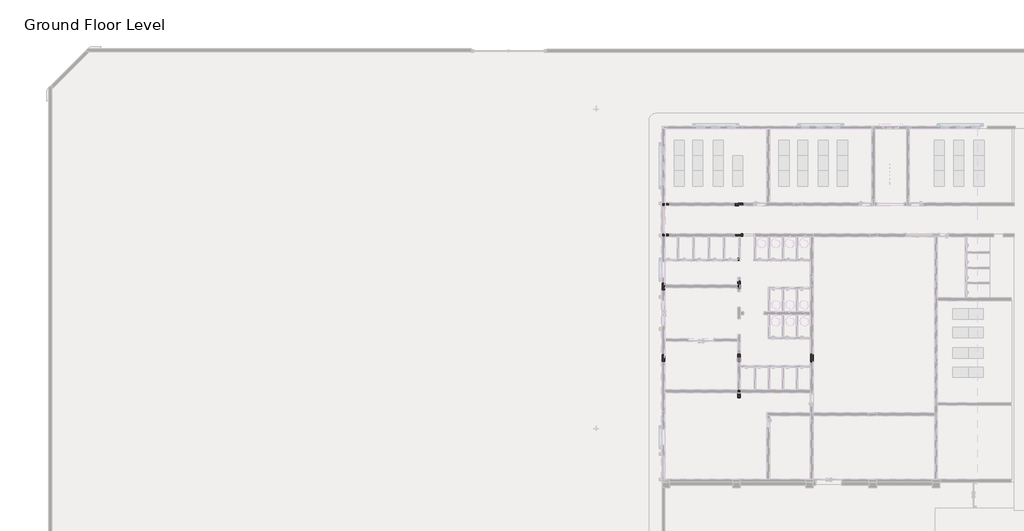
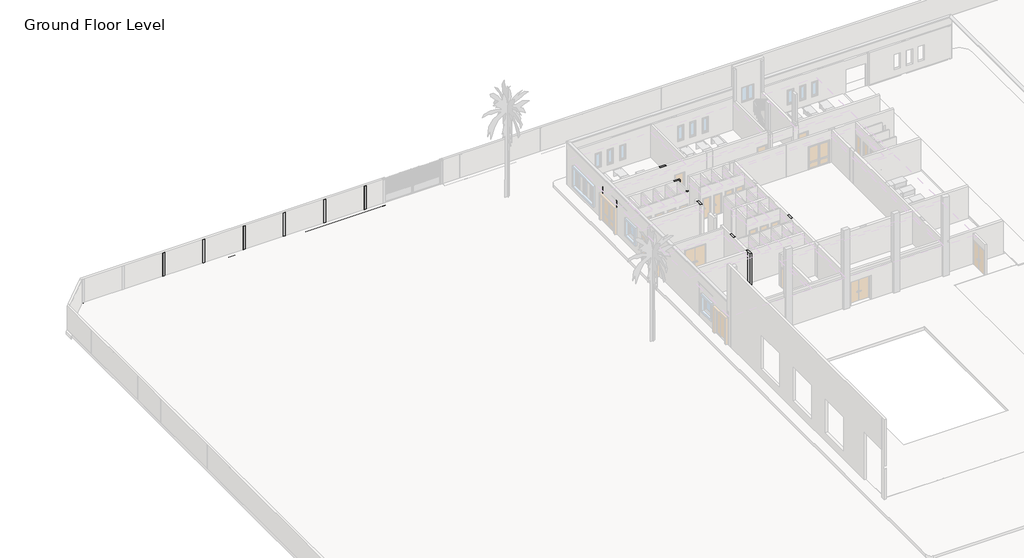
# One storey, part 18 of 23: 27 beams, 17 columns, 11 slabs, 1 footing.
"""IFC4 building model written with IfcOpenShell, lengths in millimetres."""

from ifc_helpers import new_model, si_unit, frame, origin, place, context, project, spatial, polyline, outline, extrude, faceted_brep, element, save

model = new_model("IFC4")

# Units and contexts
model_context = context("Model", 3, world=origin())
ifc_project = project(units=[si_unit("LENGTHUNIT", "METRE", prefix="MILLI")], contexts=[model_context])

# Site, building, storey
site = spatial("IfcSite", under=ifc_project)
building = spatial("IfcBuilding", under=site)
storey = spatial("IfcBuildingStorey", under=building, Name="Ground Floor Level", Elevation=900.0)

# Beams
placement = place(None, origin())
element("IfcBeam", 1, ObjectType="Concrete - Rectangular Beam : GB1", at=placement, inside=storey, context=model_context, shape_type="SweptSolid", body=[
    extrude(outline(polyline([(-22047.2327605, 15445.2153534), (-21847.2327605, 15445.2153534), (-21847.2327605, 13245.2153534), (-22047.2327605, 13245.2153534), (-22047.2327605, 15445.2153534)])), frame((0.0, 0.0, 500.0), z_axis=(0.0, 0.0, 1.0), x_axis=(1.0, 0.0, 0.0)), (0.0, 0.0, 1.0), 100.0),
])
element("IfcBeam", 2, ObjectType="Concrete - Rectangular Beam : GB1", at=placement, inside=storey, context=model_context, shape_type="SweptSolid", body=[
    extrude(outline(polyline([(-19747.2327605, 13045.2153534), (-19547.2327605, 13045.2153534), (-19547.2327605, 11345.2153534), (-19747.2327605, 11345.2153534), (-19747.2327605, 13045.2153534)])), frame((0.0, 0.0, 500.0), z_axis=(0.0, 0.0, 1.0), x_axis=(1.0, 0.0, 0.0)), (0.0, 0.0, 1.0), 100.0),
])
element("IfcBeam", 3, ObjectType="Concrete - Rectangular Beam : GB1", at=placement, inside=storey, context=model_context, shape_type="SweptSolid", body=[
    extrude(outline(polyline([(-18547.2327605, 13045.2153534), (-18347.2327605, 13045.2153534), (-18347.2327605, 11345.2153534), (-18547.2327605, 11345.2153534), (-18547.2327605, 13045.2153534)])), frame((0.0, 0.0, 500.0), z_axis=(0.0, 0.0, 1.0), x_axis=(1.0, 0.0, 0.0)), (0.0, 0.0, 1.0), 100.0),
])
element("IfcBeam", 4, ObjectType="Concrete - Rectangular Beam : GB1", at=placement, inside=storey, context=model_context, shape_type="SweptSolid", body=[
    extrude(outline(polyline([(-17347.2327605, 13045.2153534), (-17147.2327605, 13045.2153534), (-17147.2327605, 11345.2153534), (-17347.2327605, 11345.2153534), (-17347.2327605, 13045.2153534)])), frame((0.0, 0.0, 500.0), z_axis=(0.0, 0.0, 1.0), x_axis=(1.0, 0.0, 0.0)), (0.0, 0.0, 1.0), 100.0),
])
element("IfcBeam", 5, ObjectType="Concrete - Rectangular Beam : GB1", at=placement, inside=storey, context=model_context, shape_type="SweptSolid", body=[
    extrude(outline(polyline([(-16147.2327605, 11345.2153534), (-16147.2327605, 13045.2153534), (-15947.2327605, 13045.2153534), (-15947.2327605, 11345.2153534), (-16147.2327605, 11345.2153534)])), frame((0.0, 0.0, 500.0), z_axis=(0.0, 0.0, 1.0), x_axis=(1.0, 0.0, 0.0)), (0.0, 0.0, 1.0), 100.0),
])
element("IfcBeam", 6, ObjectType="Concrete - Rectangular Beam : GB1", at=placement, inside=storey, context=model_context, shape_type="SweptSolid", body=[
    extrude(outline(polyline([(-13547.2327605, 5245.2153534), (-13747.2327605, 5245.2153534), (-13747.2327605, 6945.2153534), (-13547.2327605, 6945.2153534), (-13547.2327605, 5245.2153534)])), frame((0.0, 0.0, 500.0), z_axis=(0.0, 0.0, 1.0), x_axis=(1.0, 0.0, 0.0)), (0.0, 0.0, 1.0), 100.0),
])
element("IfcBeam", 7, ObjectType="Concrete - Rectangular Beam : GB1", at=placement, inside=storey, context=model_context, shape_type="SweptSolid", body=[
    extrude(outline(polyline([(-12447.2327605, 5245.2153534), (-12647.2327605, 5245.2153534), (-12647.2327605, 6945.2153534), (-12447.2327605, 6945.2153534), (-12447.2327605, 5245.2153534)])), frame((0.0, 0.0, 500.0), z_axis=(0.0, 0.0, 1.0), x_axis=(1.0, 0.0, 0.0)), (0.0, 0.0, 1.0), 100.0),
])
element("IfcBeam", 8, ObjectType="Concrete - Rectangular Beam : GB1", at=placement, inside=storey, context=model_context, shape_type="SweptSolid", body=[
    extrude(outline(polyline([(-14847.2327605, 2745.2153534), (-14647.2327605, 2745.2153534), (-14647.2327605, 1095.2153534), (-14847.2327605, 1095.2153534), (-14847.2327605, 2745.2153534)])), frame((0.0, 0.0, 500.0), z_axis=(0.0, 0.0, 1.0), x_axis=(1.0, 0.0, 0.0)), (0.0, 0.0, 1.0), 100.0),
])
element("IfcBeam", 9, ObjectType="Concrete - Rectangular Beam : GB1", at=placement, inside=storey, context=model_context, shape_type="SweptSolid", body=[
    extrude(outline(polyline([(-13747.2327605, 2745.2153534), (-13547.2327605, 2745.2153534), (-13547.2327605, 1095.2153534), (-13747.2327605, 1095.2153534), (-13747.2327605, 2745.2153534)])), frame((0.0, 0.0, 500.0), z_axis=(0.0, 0.0, 1.0), x_axis=(1.0, 0.0, 0.0)), (0.0, 0.0, 1.0), 100.0),
])
element("IfcBeam", 10, ObjectType="Concrete - Rectangular Beam : GB1", at=placement, inside=storey, context=model_context, shape_type="SweptSolid", body=[
    extrude(outline(polyline([(-12647.2327605, 2745.2153534), (-12447.2327605, 2745.2153534), (-12447.2327605, 1095.2153534), (-12647.2327605, 1095.2153534), (-12647.2327605, 2745.2153534)])), frame((0.0, 0.0, 500.0), z_axis=(0.0, 0.0, 1.0), x_axis=(1.0, 0.0, 0.0)), (0.0, 0.0, 1.0), 100.0),
])
element("IfcBeam", 11, ObjectType="Concrete - Rectangular Beam : GB1", at=placement, inside=storey, context=model_context, shape_type="SweptSolid", body=[
    extrude(outline(polyline([(-11547.2327605, 2745.2153534), (-11347.2327605, 2745.2153534), (-11347.2327605, 1095.2153534), (-11547.2327605, 1095.2153534), (-11547.2327605, 2745.2153534)])), frame((0.0, 0.0, 500.0), z_axis=(0.0, 0.0, 1.0), x_axis=(1.0, 0.0, 0.0)), (0.0, 0.0, 1.0), 100.0),
])
element("IfcBeam", 12, ObjectType="Concrete - Rectangular Beam : GB2", at=placement, inside=storey, context=model_context, shape_type="SweptSolid", body=[
    extrude(outline(polyline([(-20947.2327605, 13045.2153534), (-20747.2327605, 13045.2153534), (-20747.2327605, 11345.2153534), (-20947.2327605, 11345.2153534), (-20947.2327605, 13045.2153534)])), frame((0.0, 0.0, 300.0), z_axis=(0.0, 0.0, 1.0), x_axis=(1.0, 0.0, 0.0)), (0.0, 0.0, 1.0), 300.0),
])
element("IfcBeam", 13, ObjectType="Concrete - Rectangular Beam : GB2", at=placement, inside=storey, context=model_context, shape_type="SweptSolid", body=[
    extrude(outline(polyline([(-15947.2327605, 9545.2153534), (-16147.2327605, 9545.2153534), (-16147.2327605, 11145.2153534), (-15947.2327605, 11145.2153534), (-15947.2327605, 9545.2153534)])), frame((0.0, 0.0, 300.0), z_axis=(0.0, 0.0, 1.0), x_axis=(1.0, 0.0, 0.0)), (0.0, 0.0, 1.0), 300.0),
])
element("IfcBeam", 14, ObjectType="Concrete - Rectangular Beam : GB3", at=placement, inside=storey, context=model_context, shape_type="SweptSolid", body=[
    extrude(outline(polyline([(-21847.2327605, 845.2153534), (-21847.2327605, 1045.2153534), (-16197.2327605, 1045.2153534), (-16197.2327605, 845.2153534), (-21847.2327605, 845.2153534)])), frame((0.0, 0.0, 300.0), z_axis=(0.0, 0.0, 1.0), x_axis=(1.0, 0.0, 0.0)), (0.0, 0.0, 1.0), 300.0),
])
element("IfcBeam", 15, ObjectType="Concrete - Rectangular Beam : GB4", at=placement, inside=storey, context=model_context, shape_type="Brep", body=[
    faceted_brep([(-22047.2327605, 3295.2153534, 300.0), (-22047.2327605, -654.7846466, 300.0), (-22047.2327605, -654.7846466, 600.0), (-22047.2327605, 3295.2153534, 600.0), (-21847.2327605, 3295.2153534, 300.0), (-21847.2327605, 1045.2153534, 300.0), (-21847.2327605, 845.2153534, 300.0), (-21847.2327605, -654.7846466, 300.0), (-21847.2327605, 3295.2153534, 600.0), (-21847.2327605, 1045.2153534, 600.0), (-21847.2327605, 845.2153534, 600.0), (-21847.2327605, -654.7846466, 600.0)], [[[0, 1, 2, 3]], [[0, 4, 5, 6, 7, 1]], [[7, 6, 5, 4, 8, 9, 10, 11]], [[4, 0, 3, 8]], [[1, 7, 11, 2]], [[3, 2, 11, 10, 9, 8]]]),
])
element("IfcBeam", 16, ObjectType="Concrete - Rectangular Beam : GB4", at=placement, inside=storey, context=model_context, shape_type="SweptSolid", body=[
    extrude(outline(polyline([(-21547.2327605, 15445.2153534), (-21547.2327605, 15645.2153534), (-16347.2327605, 15645.2153534), (-16347.2327605, 15445.2153534), (-21547.2327605, 15445.2153534)])), frame((0.0, 0.0, 300.0), z_axis=(0.0, 0.0, 1.0), x_axis=(1.0, 0.0, 0.0)), (0.0, 0.0, 1.0), 300.0),
])
element("IfcBeam", 17, ObjectType="Concrete - Rectangular Beam : GB4", at=placement, inside=storey, context=model_context, shape_type="SweptSolid", body=[
    extrude(outline(polyline([(-21797.2327605, 9045.2153534), (-21797.2327605, 9245.2153534), (-16197.2327605, 9245.2153534), (-16197.2327605, 9045.2153534), (-21797.2327605, 9045.2153534)])), frame((0.0, 0.0, 300.0), z_axis=(0.0, 0.0, 1.0), x_axis=(1.0, 0.0, 0.0)), (0.0, 0.0, 1.0), 300.0),
])
element("IfcBeam", 18, ObjectType="Concrete - Rectangular Beam : GB4", at=placement, inside=storey, context=model_context, shape_type="SweptSolid", body=[
    extrude(outline(polyline([(-21847.2327605, 4845.2153534), (-21847.2327605, 5045.2153534), (-16197.2327605, 5045.2153534), (-16197.2327605, 4845.2153534), (-21847.2327605, 4845.2153534)])), frame((0.0, 0.0, 300.0), z_axis=(0.0, 0.0, 1.0), x_axis=(1.0, 0.0, 0.0)), (0.0, 0.0, 1.0), 300.0),
])
element("IfcBeam", 19, ObjectType="Concrete - Rectangular Beam : GB5", at=placement, inside=storey, context=model_context, shape_type="Brep", body=[
    faceted_brep([(-22047.2327605, 8895.2153534, 300.0), (-22047.2327605, 3795.2153534, 300.0), (-22047.2327605, 3795.2153534, 600.0), (-22047.2327605, 8895.2153534, 600.0), (-21847.2327605, 8895.2153534, 300.0), (-21847.2327605, 5045.2153534, 300.0), (-21847.2327605, 4845.2153534, 300.0), (-21847.2327605, 3795.2153534, 300.0), (-21847.2327605, 8895.2153534, 600.0), (-21847.2327605, 5045.2153534, 600.0), (-21847.2327605, 4845.2153534, 600.0), (-21847.2327605, 3795.2153534, 600.0)], [[[0, 1, 2, 3]], [[0, 4, 5, 6, 7, 1]], [[7, 6, 5, 4, 8, 9, 10, 11]], [[4, 0, 3, 8]], [[1, 7, 11, 2]], [[3, 2, 11, 10, 9, 8]]]),
])
element("IfcBeam", 20, ObjectType="Concrete - Rectangular Beam : GB5", at=placement, inside=storey, context=model_context, shape_type="Brep", body=[
    faceted_brep([(-16347.2327605, 13245.2153534, 300.0), (-21547.2327605, 13245.2153534, 300.0), (-21547.2327605, 13245.2153534, 600.0), (-16347.2327605, 13245.2153534, 600.0), (-21547.2327605, 13045.2153534, 300.0), (-16347.2327605, 13045.2153534, 300.0), (-20747.2327605, 13045.2153534, 300.0), (-20947.2327605, 13045.2153534, 300.0), (-16347.2327605, 13045.2153534, 600.0), (-17147.2327605, 13045.2153534, 600.0), (-17347.2327605, 13045.2153534, 600.0), (-18347.2327605, 13045.2153534, 600.0), (-18547.2327605, 13045.2153534, 600.0), (-19547.2327605, 13045.2153534, 600.0), (-19747.2327605, 13045.2153534, 600.0), (-20747.2327605, 13045.2153534, 600.0), (-20947.2327605, 13045.2153534, 600.0), (-21547.2327605, 13045.2153534, 600.0)], [[[0, 1, 2, 3]], [[4, 1, 0, 5, 6, 7]], [[4, 7, 6, 5, 8, 9, 10, 11, 12, 13, 14, 15, 16, 17]], [[1, 4, 17, 2]], [[5, 0, 3, 8]], [[3, 2, 17, 16, 15, 14, 13, 12, 11, 10, 9, 8]]]),
])
element("IfcBeam", 21, ObjectType="Concrete - Rectangular Beam : GB5", at=placement, inside=storey, context=model_context, shape_type="Brep", body=[
    faceted_brep([(-21797.2327605, 11145.2153534, 300.0), (-16147.2327605, 11145.2153534, 300.0), (-16147.2327605, 11145.2153534, 600.0), (-21797.2327605, 11145.2153534, 600.0), (-21797.2327605, 11345.2153534, 300.0), (-20947.2327605, 11345.2153534, 300.0), (-20747.2327605, 11345.2153534, 300.0), (-16147.2327605, 11345.2153534, 300.0), (-21797.2327605, 11345.2153534, 600.0), (-20947.2327605, 11345.2153534, 600.0), (-20747.2327605, 11345.2153534, 600.0), (-19747.2327605, 11345.2153534, 600.0), (-19547.2327605, 11345.2153534, 600.0), (-18547.2327605, 11345.2153534, 600.0), (-18347.2327605, 11345.2153534, 600.0), (-17347.2327605, 11345.2153534, 600.0), (-17147.2327605, 11345.2153534, 600.0), (-16147.2327605, 11345.2153534, 600.0)], [[[0, 1, 2, 3]], [[0, 4, 5, 6, 7, 1]], [[7, 6, 5, 4, 8, 9, 10, 11, 12, 13, 14, 15, 16, 17]], [[4, 0, 3, 8]], [[1, 7, 17, 2]], [[3, 2, 17, 16, 15, 14, 13, 12, 11, 10, 9, 8]]]),
])
element("IfcBeam", 22, ObjectType="Concrete - Rectangular Beam : GB5", at=placement, inside=storey, context=model_context, shape_type="Brep", body=[
    faceted_brep([(-15897.2327605, 5045.2153534, 300.0), (-10497.2327605, 5045.2153534, 300.0), (-10497.2327605, 5045.2153534, 600.0), (-15897.2327605, 5045.2153534, 600.0), (-10497.2327605, 5245.2153534, 300.0), (-15897.2327605, 5245.2153534, 300.0), (-15897.2327605, 5245.2153534, 600.0), (-13747.2327605, 5245.2153534, 600.0), (-13547.2327605, 5245.2153534, 600.0), (-12647.2327605, 5245.2153534, 600.0), (-12447.2327605, 5245.2153534, 600.0), (-11547.2327605, 5245.2153534, 600.0), (-11347.2327605, 5245.2153534, 600.0), (-10497.2327605, 5245.2153534, 600.0)], [[[0, 1, 2, 3]], [[4, 1, 0, 5]], [[4, 5, 6, 7, 8, 9, 10, 11, 12, 13]], [[1, 4, 13, 2]], [[5, 0, 3, 6]], [[3, 2, 13, 12, 11, 10, 9, 8, 7, 6]]]),
])
element("IfcBeam", 23, ObjectType="Concrete - Rectangular Beam : GB5", at=placement, inside=storey, context=model_context, shape_type="Brep", body=[
    faceted_brep([(-15897.2327605, 2745.2153534, 300.0), (-10497.2327605, 2745.2153534, 300.0), (-10497.2327605, 2745.2153534, 600.0), (-11347.2327605, 2745.2153534, 600.0), (-11547.2327605, 2745.2153534, 600.0), (-12447.2327605, 2745.2153534, 600.0), (-12647.2327605, 2745.2153534, 600.0), (-13547.2327605, 2745.2153534, 600.0), (-13747.2327605, 2745.2153534, 600.0), (-14647.2327605, 2745.2153534, 600.0), (-14847.2327605, 2745.2153534, 600.0), (-15897.2327605, 2745.2153534, 600.0), (-10497.2327605, 2945.2153534, 300.0), (-15897.2327605, 2945.2153534, 300.0), (-15897.2327605, 2945.2153534, 600.0), (-10497.2327605, 2945.2153534, 600.0)], [[[0, 1, 2, 3, 4, 5, 6, 7, 8, 9, 10, 11]], [[12, 1, 0, 13]], [[12, 13, 14, 15]], [[1, 12, 15, 2]], [[13, 0, 11, 14]], [[11, 10, 9, 8, 7, 6, 5, 4, 3, 2, 15, 14]]]),
])
element("IfcBeam", 24, ObjectType="Concrete - Rectangular Beam : GB5", at=placement, inside=storey, context=model_context, shape_type="Brep", body=[
    faceted_brep([(-15897.2327605, 6945.2153534, 300.0), (-10497.2327605, 6945.2153534, 300.0), (-10497.2327605, 6945.2153534, 600.0), (-11347.2327605, 6945.2153534, 600.0), (-11547.2327605, 6945.2153534, 600.0), (-12447.2327605, 6945.2153534, 600.0), (-12647.2327605, 6945.2153534, 600.0), (-13547.2327605, 6945.2153534, 600.0), (-13747.2327605, 6945.2153534, 600.0), (-15897.2327605, 6945.2153534, 600.0), (-10497.2327605, 7145.2153534, 300.0), (-15897.2327605, 7145.2153534, 300.0), (-15897.2327605, 7145.2153534, 600.0), (-13747.2327605, 7145.2153534, 600.0), (-13547.2327605, 7145.2153534, 600.0), (-12647.2327605, 7145.2153534, 600.0), (-12447.2327605, 7145.2153534, 600.0), (-11547.2327605, 7145.2153534, 600.0), (-11347.2327605, 7145.2153534, 600.0), (-10497.2327605, 7145.2153534, 600.0)], [[[0, 1, 2, 3, 4, 5, 6, 7, 8, 9]], [[10, 1, 0, 11]], [[10, 11, 12, 13, 14, 15, 16, 17, 18, 19]], [[1, 10, 19, 2]], [[11, 0, 9, 12]], [[9, 8, 7, 6, 5, 4, 3, 2, 19, 18, 17, 16, 15, 14, 13, 12]]]),
])
element("IfcBeam", 25, ObjectType="Concrete - Rectangular Beam : GB6", at=placement, inside=storey, context=model_context, shape_type="Brep", body=[
    faceted_brep([(-22097.2327605, 13245.2153534, 300.0), (-22097.2327605, 9045.2153534, 300.0), (-22097.2327605, 9045.2153534, 600.0), (-22097.2327605, 13245.2153534, 600.0), (-22047.2327605, 13045.2153534, 300.0), (-21797.2327605, 13045.2153534, 300.0), (-21797.2327605, 11345.2153534, 300.0), (-21797.2327605, 11145.2153534, 300.0), (-21797.2327605, 9245.2153534, 300.0), (-21797.2327605, 9045.2153534, 300.0), (-21847.2327605, 9045.2153534, 300.0), (-21847.2327605, 9395.2153534, 300.0), (-22047.2327605, 9395.2153534, 300.0), (-22047.2327605, 9045.2153534, 300.0), (-22047.2327605, 13245.2153534, 300.0), (-21797.2327605, 13045.2153534, 600.0), (-21797.2327605, 11345.2153534, 600.0), (-21797.2327605, 11145.2153534, 600.0), (-21797.2327605, 9245.2153534, 600.0), (-21797.2327605, 9045.2153534, 600.0), (-22047.2327605, 13045.2153534, 600.0), (-22047.2327605, 13245.2153534, 600.0), (-22047.2327605, 9395.2153534, 600.0), (-22047.2327605, 9045.2153534, 600.0), (-21847.2327605, 9395.2153534, 600.0), (-21847.2327605, 9045.2153534, 600.0)], [[[0, 1, 2, 3]], [[4, 5, 6, 7, 8, 9, 10, 11, 12, 13, 1, 0, 14]], [[9, 8, 7, 6, 5, 15, 16, 17, 18, 19]], [[5, 4, 20, 15]], [[4, 14, 21, 20]], [[13, 12, 22, 23]], [[12, 11, 24, 22]], [[11, 10, 25, 24]], [[14, 0, 3, 21]], [[1, 13, 23, 2]], [[10, 9, 19, 25]], [[3, 2, 23, 22, 24, 25, 19, 18, 17, 16, 15, 20, 21]]]),
])
element("IfcBeam", 26, ObjectType="Concrete - Rectangular Beam : GB6", at=placement, inside=storey, context=model_context, shape_type="Brep", body=[
    faceted_brep([(-16197.2327605, 9245.2153534, 300.0), (-16197.2327605, 9045.2153534, 300.0), (-16197.2327605, 5045.2153534, 300.0), (-16197.2327605, 4845.2153534, 300.0), (-16197.2327605, 1045.2153534, 300.0), (-16197.2327605, 845.2153534, 300.0), (-16197.2327605, 795.2153534, 300.0), (-16197.2327605, 795.2153534, 600.0), (-16197.2327605, 845.2153534, 600.0), (-16197.2327605, 1045.2153534, 600.0), (-16197.2327605, 4845.2153534, 600.0), (-16197.2327605, 5045.2153534, 600.0), (-16197.2327605, 9045.2153534, 600.0), (-16197.2327605, 9245.2153534, 600.0), (-16147.2327605, 9245.2153534, 300.0), (-16147.2327605, 8945.2153534, 300.0), (-15947.2327605, 8945.2153534, 300.0), (-15947.2327605, 9245.2153534, 300.0), (-15897.2327605, 9245.2153534, 300.0), (-15897.2327605, 9145.2153534, 300.0), (-15897.2327605, 8945.2153534, 300.0), (-15897.2327605, 7145.2153534, 300.0), (-15897.2327605, 6945.2153534, 300.0), (-15897.2327605, 5245.2153534, 300.0), (-15897.2327605, 5045.2153534, 300.0), (-15897.2327605, 2945.2153534, 300.0), (-15897.2327605, 2745.2153534, 300.0), (-15897.2327605, 1095.2153534, 300.0), (-15897.2327605, 795.2153534, 300.0), (-15947.2327605, 795.2153534, 300.0), (-15947.2327605, 1045.2153534, 300.0), (-16147.2327605, 1045.2153534, 300.0), (-16147.2327605, 795.2153534, 300.0), (-15947.2327605, 3245.2153534, 300.0), (-15947.2327605, 3845.2153534, 300.0), (-16147.2327605, 3845.2153534, 300.0), (-16147.2327605, 3245.2153534, 300.0), (-15897.2327605, 9245.2153534, 600.0), (-15897.2327605, 9145.2153534, 600.0), (-15897.2327605, 8945.2153534, 600.0), (-15897.2327605, 7145.2153534, 600.0), (-15897.2327605, 6945.2153534, 600.0), (-15897.2327605, 5245.2153534, 600.0), (-15897.2327605, 5045.2153534, 600.0), (-15897.2327605, 2945.2153534, 600.0), (-15897.2327605, 2745.2153534, 600.0), (-15897.2327605, 1095.2153534, 600.0), (-15897.2327605, 795.2153534, 600.0), (-15947.2327605, 8945.2153534, 600.0), (-15947.2327605, 9245.2153534, 600.0), (-16147.2327605, 8945.2153534, 600.0), (-16147.2327605, 9245.2153534, 600.0), (-15947.2327605, 795.2153534, 600.0), (-15947.2327605, 1045.2153534, 600.0), (-16147.2327605, 1045.2153534, 600.0), (-16147.2327605, 795.2153534, 600.0), (-15947.2327605, 3245.2153534, 600.0), (-15947.2327605, 3845.2153534, 600.0), (-16147.2327605, 3245.2153534, 600.0), (-16147.2327605, 3845.2153534, 600.0)], [[[0, 1, 2, 3, 4, 5, 6, 7, 8, 9, 10, 11, 12, 13]], [[6, 5, 4, 3, 2, 1, 0, 14, 15, 16, 17, 18, 19, 20, 21, 22, 23, 24, 25, 26, 27, 28, 29, 30, 31, 32], [33, 34, 35, 36]], [[28, 27, 26, 25, 24, 23, 22, 21, 20, 19, 18, 37, 38, 39, 40, 41, 42, 43, 44, 45, 46, 47]], [[17, 16, 48, 49]], [[16, 15, 50, 48]], [[15, 14, 51, 50]], [[30, 29, 52, 53]], [[32, 31, 54, 55]], [[31, 30, 53, 54]], [[14, 0, 13, 51]], [[6, 32, 55, 7]], [[18, 17, 49, 37]], [[29, 28, 47, 52]], [[34, 33, 56, 57]], [[33, 36, 58, 56]], [[36, 35, 59, 58]], [[35, 34, 57, 59]], [[13, 12, 11, 10, 9, 8, 7, 55, 54, 53, 52, 47, 46, 45, 44, 43, 42, 41, 40, 39, 38, 37, 49, 48, 50, 51], [57, 56, 58, 59]]]),
])
element("IfcBeam", 27, ObjectType="Concrete - Rectangular Beam : GB6", at=placement, inside=storey, context=model_context, shape_type="Brep", body=[
    faceted_brep([(-15897.2327605, 795.2153534, 300.0), (-13847.2327605, 795.2153534, 300.0), (-13647.2327605, 795.2153534, 300.0), (-10497.2327605, 795.2153534, 300.0), (-10497.2327605, 795.2153534, 600.0), (-13647.2327605, 795.2153534, 600.0), (-13847.2327605, 795.2153534, 600.0), (-15897.2327605, 795.2153534, 600.0), (-10497.2327605, 1095.2153534, 300.0), (-15897.2327605, 1095.2153534, 300.0), (-15897.2327605, 1095.2153534, 600.0), (-14847.2327605, 1095.2153534, 600.0), (-14647.2327605, 1095.2153534, 600.0), (-13747.2327605, 1095.2153534, 600.0), (-13547.2327605, 1095.2153534, 600.0), (-12647.2327605, 1095.2153534, 600.0), (-12447.2327605, 1095.2153534, 600.0), (-11547.2327605, 1095.2153534, 600.0), (-11347.2327605, 1095.2153534, 600.0), (-10497.2327605, 1095.2153534, 600.0)], [[[0, 1, 2, 3, 4, 5, 6, 7]], [[8, 3, 2, 1, 0, 9]], [[8, 9, 10, 11, 12, 13, 14, 15, 16, 17, 18, 19]], [[3, 8, 19, 4]], [[9, 0, 7, 10]], [[7, 6, 5, 4, 19, 18, 17, 16, 15, 14, 13, 12, 11, 10]]]),
])

# Columns
element("IfcColumn", 28, ObjectType="Concrete Rectangular : C", at=placement, inside=storey, context=model_context, shape_type="Brep", body=[
    faceted_brep([(-15947.2327605, 11345.2153534, -300.0), (-15947.2327605, 11145.2153534, -300.0), (-16147.2327605, 11145.2153534, -300.0), (-16147.2327605, 11345.2153534, -300.0), (-15947.2327605, 11145.2153534, 600.0), (-15947.2327605, 11345.2153534, 600.0), (-16147.2327605, 11345.2153534, 600.0), (-16147.2327605, 11145.2153534, 600.0), (-15947.2327605, 11345.2153534, 300.0), (-15947.2327605, 11345.2153534, 500.0), (-15947.2327605, 11145.2153534, 300.0), (-16147.2327605, 11145.2153534, 300.0), (-16147.2327605, 11345.2153534, 500.0), (-16147.2327605, 11345.2153534, 300.0)], [[[0, 1, 2, 3]], [[4, 5, 6, 7]], [[1, 0, 8, 9, 5, 4, 10]], [[2, 1, 10, 4, 7, 11]], [[3, 2, 11, 7, 6, 12, 13]], [[0, 3, 13, 12, 6, 5, 9, 8]]]),
    faceted_brep([(-15947.2327605, 11345.2153534, 4400.0), (-15947.2327605, 11255.2153534, 4400.0), (-15947.2327605, 11145.2153534, 4400.0), (-15947.2327605, 11145.2153534, 900.0), (-15947.2327605, 11255.2153534, 900.0), (-15947.2327605, 11345.2153534, 900.0), (-16147.2327605, 11145.2153534, 4400.0), (-16147.2327605, 11145.2153534, 900.0), (-16147.2327605, 11255.2153534, 4400.0), (-16147.2327605, 11345.2153534, 4400.0), (-16147.2327605, 11345.2153534, 900.0), (-16147.2327605, 11255.2153534, 900.0), (-16057.2327605, 11345.2153534, 4400.0), (-16057.2327605, 11345.2153534, 900.0)], [[[0, 1, 2, 3, 4, 5]], [[2, 6, 7, 3]], [[6, 8, 9, 10, 11, 7]], [[9, 12, 0, 5, 13, 10]], [[2, 1, 0, 12, 9, 8, 6]], [[5, 4, 3, 7, 11, 10, 13]]]),
])
element("IfcColumn", 29, ObjectType="Concrete Rectangular : C", at=placement, inside=storey, context=model_context, shape_type="SweptSolid", body=[
    extrude(outline(polyline([(-58647.1210225, 27650.6767253), (-58647.1210225, 27450.6767253), (-58847.1210225, 27450.6767253), (-58847.1210225, 27650.6767253), (-58647.1210225, 27650.6767253)])), frame((0.0, 0.0, 600.0), z_axis=(0.0, 0.0, 1.0), x_axis=(1.0, 0.0, 0.0)), (0.0, 0.0, 1.0), 2450.0),
])
element("IfcColumn", 30, ObjectType="Concrete Rectangular : C", at=placement, inside=storey, context=model_context, shape_type="SweptSolid", body=[
    extrude(outline(polyline([(-54647.1210225, 27650.6767253), (-54647.1210225, 27450.6767253), (-54847.1210225, 27450.6767253), (-54847.1210225, 27650.6767253), (-54647.1210225, 27650.6767253)])), frame((0.0, 0.0, 600.0), z_axis=(0.0, 0.0, 1.0), x_axis=(1.0, 0.0, 0.0)), (0.0, 0.0, 1.0), 2450.0),
])
element("IfcColumn", 31, ObjectType="Concrete Rectangular : C", at=placement, inside=storey, context=model_context, shape_type="SweptSolid", body=[
    extrude(outline(polyline([(-50647.1210225, 27650.6767253), (-50647.1210225, 27450.6767253), (-50847.1210225, 27450.6767253), (-50847.1210225, 27650.6767253), (-50647.1210225, 27650.6767253)])), frame((0.0, 0.0, 600.0), z_axis=(0.0, 0.0, 1.0), x_axis=(1.0, 0.0, 0.0)), (0.0, 0.0, 1.0), 2450.0),
])
element("IfcColumn", 32, ObjectType="Concrete Rectangular : C", at=placement, inside=storey, context=model_context, shape_type="SweptSolid", body=[
    extrude(outline(polyline([(-46647.1210225, 27650.6767253), (-46647.1210225, 27450.6767253), (-46847.1210225, 27450.6767253), (-46847.1210225, 27650.6767253), (-46647.1210225, 27650.6767253)])), frame((0.0, 0.0, 600.0), z_axis=(0.0, 0.0, 1.0), x_axis=(1.0, 0.0, 0.0)), (0.0, 0.0, 1.0), 2450.0),
])
element("IfcColumn", 33, ObjectType="Concrete Rectangular : C", at=placement, inside=storey, context=model_context, shape_type="SweptSolid", body=[
    extrude(outline(polyline([(-42647.1210225, 27650.6767253), (-42647.1210225, 27450.6767253), (-42847.1210225, 27450.6767253), (-42847.1210225, 27650.6767253), (-42647.1210225, 27650.6767253)])), frame((0.0, 0.0, 600.0), z_axis=(0.0, 0.0, 1.0), x_axis=(1.0, 0.0, 0.0)), (0.0, 0.0, 1.0), 2450.0),
])
element("IfcColumn", 34, ObjectType="Concrete Rectangular : C", at=placement, inside=storey, context=model_context, shape_type="SweptSolid", body=[
    extrude(outline(polyline([(-38647.1210225, 27650.6767253), (-38647.1210225, 27450.6767253), (-38847.1210225, 27450.6767253), (-38847.1210225, 27650.6767253), (-38647.1210225, 27650.6767253)])), frame((0.0, 0.0, 600.0), z_axis=(0.0, 0.0, 1.0), x_axis=(1.0, 0.0, 0.0)), (0.0, 0.0, 1.0), 2450.0),
])
element("IfcColumn", 35, ObjectType="Concrete Rectangular : C2", at=placement, inside=storey, context=model_context, shape_type="Brep", body=[
    faceted_brep([(-22047.2327605, 15645.2153534, -300.0), (-21547.2327605, 15645.2153534, -300.0), (-21547.2327605, 15445.2153534, -300.0), (-22047.2327605, 15445.2153534, -300.0), (-22047.2327605, 15645.2153534, 4400.0), (-21837.2327605, 15645.2153534, 4400.0), (-21547.2327605, 15645.2153534, 4400.0), (-21547.2327605, 15645.2153534, 1000.0), (-21547.2327605, 15645.2153534, 900.0), (-22047.2327605, 15645.2153534, 900.0), (-21547.2327605, 15445.2153534, 4400.0), (-21547.2327605, 15445.2153534, 1000.0), (-21547.2327605, 15445.2153534, 900.0), (-21837.2327605, 15445.2153534, 4400.0), (-22047.2327605, 15445.2153534, 4400.0), (-22047.2327605, 15445.2153534, 900.0)], [[[0, 1, 2, 3]], [[4, 5, 6, 7, 8, 1, 0, 9]], [[6, 10, 11, 12, 2, 1, 8, 7]], [[10, 13, 14, 15, 3, 2, 12, 11]], [[14, 4, 9, 0, 3, 15]], [[4, 14, 13, 10, 6, 5]]]),
])
element("IfcColumn", 36, ObjectType="Concrete Rectangular : C2", at=placement, inside=storey, context=model_context, shape_type="Brep", body=[
    faceted_brep([(-22047.2327605, 13245.2153534, -300.0), (-21547.2327605, 13245.2153534, -300.0), (-21547.2327605, 13045.2153534, -300.0), (-22047.2327605, 13045.2153534, -300.0), (-22047.2327605, 13245.2153534, 4400.0), (-21837.2327605, 13245.2153534, 4400.0), (-21547.2327605, 13245.2153534, 4400.0), (-21547.2327605, 13245.2153534, 900.0), (-22047.2327605, 13245.2153534, 900.0), (-21547.2327605, 13045.2153534, 4400.0), (-21547.2327605, 13045.2153534, 1000.0), (-21547.2327605, 13045.2153534, 900.0), (-21837.2327605, 13045.2153534, 4400.0), (-22047.2327605, 13045.2153534, 4400.0), (-22047.2327605, 13045.2153534, 900.0)], [[[0, 1, 2, 3]], [[4, 5, 6, 7, 1, 0, 8]], [[6, 9, 10, 11, 2, 1, 7]], [[9, 12, 13, 14, 3, 2, 11, 10]], [[13, 4, 8, 0, 3, 14]], [[4, 13, 12, 9, 6, 5]]]),
])
element("IfcColumn", 37, ObjectType="Concrete Rectangular : C2", at=placement, inside=storey, context=model_context, shape_type="Brep", body=[
    faceted_brep([(-22047.2327605, 8895.2153534, -300.0), (-22047.2327605, 9395.2153534, -300.0), (-21847.2327605, 9395.2153534, -300.0), (-21847.2327605, 8895.2153534, -300.0), (-22047.2327605, 9395.2153534, 600.0), (-22047.2327605, 9045.2153534, 600.0), (-22047.2327605, 8895.2153534, 600.0), (-21847.2327605, 8895.2153534, 600.0), (-21847.2327605, 9045.2153534, 600.0), (-21847.2327605, 9395.2153534, 600.0), (-22047.2327605, 8895.2153534, 300.0), (-22047.2327605, 9395.2153534, 300.0), (-21847.2327605, 9395.2153534, 300.0), (-21847.2327605, 8895.2153534, 300.0)], [[[0, 1, 2, 3]], [[4, 5, 6, 7, 8, 9]], [[1, 0, 10, 6, 5, 4, 11]], [[2, 1, 11, 4, 9, 12]], [[3, 2, 12, 9, 8, 7, 13]], [[0, 3, 13, 7, 6, 10]]]),
    faceted_brep([(-22047.2327605, 8895.2153534, 4400.0), (-22047.2327605, 9395.2153534, 4400.0), (-22047.2327605, 9395.2153534, 900.0), (-22047.2327605, 8895.2153534, 900.0), (-21847.2327605, 9395.2153534, 4400.0), (-21847.2327605, 9395.2153534, 1000.0), (-21847.2327605, 9395.2153534, 900.0), (-21847.2327605, 8895.2153534, 4400.0), (-21847.2327605, 8895.2153534, 1000.0), (-21847.2327605, 8895.2153534, 900.0)], [[[0, 1, 2, 3]], [[1, 4, 5, 6, 2]], [[4, 7, 8, 9, 6, 5]], [[7, 0, 3, 9, 8]], [[1, 0, 7, 4]], [[3, 2, 6, 9]]]),
])
element("IfcColumn", 38, ObjectType="Concrete Rectangular : C2", at=placement, inside=storey, context=model_context, shape_type="Brep", body=[
    faceted_brep([(-22047.2327605, 3295.2153534, -300.0), (-22047.2327605, 3795.2153534, -300.0), (-21847.2327605, 3795.2153534, -300.0), (-21847.2327605, 3295.2153534, -300.0), (-22047.2327605, 3795.2153534, 600.0), (-22047.2327605, 3295.2153534, 600.0), (-21847.2327605, 3295.2153534, 600.0), (-21847.2327605, 3795.2153534, 600.0), (-22047.2327605, 3295.2153534, 300.0), (-22047.2327605, 3795.2153534, 300.0), (-21847.2327605, 3795.2153534, 300.0), (-21847.2327605, 3295.2153534, 300.0)], [[[0, 1, 2, 3]], [[4, 5, 6, 7]], [[1, 0, 8, 5, 4, 9]], [[2, 1, 9, 4, 7, 10]], [[3, 2, 10, 7, 6, 11]], [[0, 3, 11, 6, 5, 8]]]),
    faceted_brep([(-22047.2327605, 3295.2153534, 4400.0), (-22047.2327605, 3795.2153534, 4400.0), (-22047.2327605, 3795.2153534, 900.0), (-22047.2327605, 3295.2153534, 900.0), (-21847.2327605, 3795.2153534, 4400.0), (-21847.2327605, 3795.2153534, 1000.0), (-21847.2327605, 3795.2153534, 900.0), (-21847.2327605, 3295.2153534, 4400.0), (-21847.2327605, 3295.2153534, 1000.0), (-21847.2327605, 3295.2153534, 900.0)], [[[0, 1, 2, 3]], [[1, 4, 5, 6, 2]], [[4, 7, 8, 9, 6, 5]], [[7, 0, 3, 9, 8]], [[1, 0, 7, 4]], [[3, 2, 6, 9]]]),
])
element("IfcColumn", 39, ObjectType="Concrete Rectangular : C3", at=placement, inside=storey, context=model_context, shape_type="Brep", body=[
    faceted_brep([(-16347.2327605, 15645.2153534, -300.0), (-15747.2327605, 15645.2153534, -300.0), (-15747.2327605, 15445.2153534, -300.0), (-16347.2327605, 15445.2153534, -300.0), (-16347.2327605, 15645.2153534, 4400.0), (-15747.2327605, 15645.2153534, 4400.0), (-15747.2327605, 15645.2153534, 1000.0), (-15747.2327605, 15645.2153534, 900.0), (-16347.2327605, 15645.2153534, 900.0), (-16347.2327605, 15645.2153534, 1000.0), (-15747.2327605, 15445.2153534, 4400.0), (-15747.2327605, 15445.2153534, 1000.0), (-15747.2327605, 15445.2153534, 900.0), (-16347.2327605, 15445.2153534, 4400.0), (-16347.2327605, 15445.2153534, 1000.0), (-16347.2327605, 15445.2153534, 900.0)], [[[0, 1, 2, 3]], [[4, 5, 6, 7, 1, 0, 8, 9]], [[5, 10, 11, 12, 2, 1, 7, 6]], [[10, 13, 14, 15, 3, 2, 12, 11]], [[13, 4, 9, 8, 0, 3, 15, 14]], [[4, 13, 10, 5]]]),
])
element("IfcColumn", 40, ObjectType="Concrete Rectangular : C3", at=placement, inside=storey, context=model_context, shape_type="Brep", body=[
    faceted_brep([(-15747.2327605, 13045.2153534, -300.0), (-16347.2327605, 13045.2153534, -300.0), (-16347.2327605, 13245.2153534, -300.0), (-15747.2327605, 13245.2153534, -300.0), (-15747.2327605, 13045.2153534, 4400.0), (-15896.7889704, 13045.2153534, 4400.0), (-16347.2327605, 13045.2153534, 4400.0), (-16347.2327605, 13045.2153534, 1000.0), (-16347.2327605, 13045.2153534, 900.0), (-16347.2327605, 13245.2153534, 4400.0), (-16347.2327605, 13245.2153534, 900.0), (-15896.7889704, 13245.2153534, 4400.0), (-15747.2327605, 13245.2153534, 4400.0)], [[[0, 1, 2, 3]], [[4, 5, 6, 7, 8, 1, 0]], [[6, 9, 10, 2, 1, 8, 7]], [[9, 11, 12, 3, 2, 10]], [[12, 4, 0, 3]], [[4, 12, 11, 9, 6, 5]]]),
])
element("IfcColumn", 41, ObjectType="Concrete Rectangular : C3", at=placement, inside=storey, context=model_context, shape_type="Brep", body=[
    faceted_brep([(-15947.2327605, 9545.2153534, -300.0), (-15947.2327605, 8945.2153534, -300.0), (-16147.2327605, 8945.2153534, -300.0), (-16147.2327605, 9545.2153534, -300.0), (-15947.2327605, 8945.2153534, 600.0), (-15947.2327605, 9245.2153534, 600.0), (-15947.2327605, 9545.2153534, 600.0), (-16147.2327605, 9545.2153534, 600.0), (-16147.2327605, 9245.2153534, 600.0), (-16147.2327605, 8945.2153534, 600.0), (-15947.2327605, 9545.2153534, 300.0), (-15947.2327605, 8945.2153534, 300.0), (-16147.2327605, 8945.2153534, 300.0), (-16147.2327605, 9545.2153534, 300.0)], [[[0, 1, 2, 3]], [[4, 5, 6, 7, 8, 9]], [[1, 0, 10, 6, 5, 4, 11]], [[2, 1, 11, 4, 9, 12]], [[3, 2, 12, 9, 8, 7, 13]], [[0, 3, 13, 7, 6, 10]]]),
    faceted_brep([(-15947.2327605, 9545.2153534, 4400.0), (-15947.2327605, 8945.2153534, 4400.0), (-15947.2327605, 8945.2153534, 900.0), (-15947.2327605, 9545.2153534, 900.0), (-16147.2327605, 8945.2153534, 4400.0), (-16147.2327605, 8945.2153534, 900.0), (-16147.2327605, 9545.2153534, 4400.0), (-16147.2327605, 9545.2153534, 900.0)], [[[0, 1, 2, 3]], [[1, 4, 5, 2]], [[4, 6, 7, 5]], [[6, 0, 3, 7]], [[1, 0, 6, 4]], [[3, 2, 5, 7]]]),
])
element("IfcColumn", 42, ObjectType="Concrete Rectangular : C3", at=placement, inside=storey, context=model_context, shape_type="Brep", body=[
    faceted_brep([(-15947.2327605, 1045.2153534, -300.0), (-15947.2327605, 445.2153534, -300.0), (-16147.2327605, 445.2153534, -300.0), (-16147.2327605, 1045.2153534, -300.0), (-15947.2327605, 445.2153534, 600.0), (-15947.2327605, 795.2153534, 600.0), (-15947.2327605, 1045.2153534, 600.0), (-16147.2327605, 1045.2153534, 600.0), (-16147.2327605, 795.2153534, 600.0), (-16147.2327605, 445.2153534, 600.0), (-15947.2327605, 1045.2153534, 300.0), (-15947.2327605, 445.2153534, 300.0), (-16147.2327605, 445.2153534, 300.0), (-16147.2327605, 1045.2153534, 300.0)], [[[0, 1, 2, 3]], [[4, 5, 6, 7, 8, 9]], [[1, 0, 10, 6, 5, 4, 11]], [[2, 1, 11, 4, 9, 12]], [[3, 2, 12, 9, 8, 7, 13]], [[0, 3, 13, 7, 6, 10]]]),
    faceted_brep([(-15947.2327605, 1045.2153534, 4400.0), (-15947.2327605, 835.2153534, 4400.0), (-15947.2327605, 445.2153534, 4400.0), (-15947.2327605, 445.2153534, 900.0), (-15947.2327605, 1045.2153534, 900.0), (-15947.2327605, 1045.2153534, 1000.0), (-16147.2327605, 445.2153534, 4400.0), (-16147.2327605, 445.2153534, 900.0), (-16147.2327605, 835.2153534, 4400.0), (-16147.2327605, 1045.2153534, 4400.0), (-16147.2327605, 1045.2153534, 1000.0), (-16147.2327605, 1045.2153534, 900.0)], [[[0, 1, 2, 3, 4, 5]], [[2, 6, 7, 3]], [[6, 8, 9, 10, 11, 7]], [[9, 0, 5, 4, 11, 10]], [[2, 1, 0, 9, 8, 6]], [[4, 3, 7, 11]]]),
])
element("IfcColumn", 43, ObjectType="Concrete Rectangular : C3", at=placement, inside=storey, context=model_context, shape_type="Brep", body=[
    faceted_brep([(-10247.2327605, 3845.2153534, -300.0), (-10247.2327605, 3245.2153534, -300.0), (-10447.2327605, 3245.2153534, -300.0), (-10447.2327605, 3845.2153534, -300.0), (-10247.2327605, 3245.2153534, 600.0), (-10247.2327605, 3845.2153534, 600.0), (-10447.2327605, 3845.2153534, 600.0), (-10447.2327605, 3245.2153534, 600.0), (-10247.2327605, 3845.2153534, 300.0), (-10247.2327605, 3245.2153534, 300.0), (-10447.2327605, 3245.2153534, 300.0), (-10447.2327605, 3845.2153534, 300.0)], [[[0, 1, 2, 3]], [[4, 5, 6, 7]], [[1, 0, 8, 5, 4, 9]], [[2, 1, 9, 4, 7, 10]], [[3, 2, 10, 7, 6, 11]], [[0, 3, 11, 6, 5, 8]]]),
    faceted_brep([(-10247.2327605, 3845.2153534, 4400.0), (-10247.2327605, 3245.2153534, 4400.0), (-10247.2327605, 3245.2153534, 1000.0), (-10247.2327605, 3245.2153534, 900.0), (-10247.2327605, 3845.2153534, 900.0), (-10247.2327605, 3845.2153534, 1000.0), (-10447.2327605, 3245.2153534, 4400.0), (-10447.2327605, 3245.2153534, 1000.0), (-10447.2327605, 3245.2153534, 900.0), (-10447.2327605, 3845.2153534, 4400.0), (-10447.2327605, 3845.2153534, 1000.0), (-10447.2327605, 3845.2153534, 900.0)], [[[0, 1, 2, 3, 4, 5]], [[1, 6, 7, 8, 3, 2]], [[6, 9, 10, 11, 8, 7]], [[9, 0, 5, 4, 11, 10]], [[1, 0, 9, 6]], [[4, 3, 8, 11]]]),
])
element("IfcColumn", 44, ObjectType="Concrete Rectangular : C3", at=placement, inside=storey, context=model_context, shape_type="Brep", body=[
    faceted_brep([(-15947.2327605, 3845.2153534, -300.0), (-15947.2327605, 3245.2153534, -300.0), (-16147.2327605, 3245.2153534, -300.0), (-16147.2327605, 3845.2153534, -300.0), (-15947.2327605, 3245.2153534, 600.0), (-15947.2327605, 3845.2153534, 600.0), (-16147.2327605, 3845.2153534, 600.0), (-16147.2327605, 3245.2153534, 600.0), (-15947.2327605, 3845.2153534, 300.0), (-15947.2327605, 3245.2153534, 300.0), (-16147.2327605, 3245.2153534, 300.0), (-16147.2327605, 3845.2153534, 300.0)], [[[0, 1, 2, 3]], [[4, 5, 6, 7]], [[1, 0, 8, 5, 4, 9]], [[2, 1, 9, 4, 7, 10]], [[3, 2, 10, 7, 6, 11]], [[0, 3, 11, 6, 5, 8]]]),
    faceted_brep([(-15947.2327605, 3845.2153534, 4400.0), (-15947.2327605, 3245.2153534, 4400.0), (-15947.2327605, 3245.2153534, 900.0), (-15947.2327605, 3845.2153534, 900.0), (-16147.2327605, 3245.2153534, 4400.0), (-16147.2327605, 3245.2153534, 900.0), (-16147.2327605, 3845.2153534, 4400.0), (-16147.2327605, 3845.2153534, 900.0)], [[[0, 1, 2, 3]], [[1, 4, 5, 2]], [[4, 6, 7, 5]], [[6, 0, 3, 7]], [[1, 0, 6, 4]], [[3, 2, 5, 7]]]),
])

# Footing
element("IfcFooting", 45, ObjectType="Bearing Footing - 600 x 300", at=placement, inside=storey, context=model_context, shape_type="Brep", body=[
    faceted_brep([(-36947.2327605, 27695.2153534, 600.0), (-36947.2327605, 27095.2153534, 600.0), (-36947.2327605, 27095.2153534, 300.0), (-36947.2327605, 27695.2153534, 300.0), (-66662.8467587, 27095.2153534, 600.0), (-66062.8467587, 27695.2153534, 600.0), (-66911.3748961, 27695.2153534, 600.0), (-66911.3748961, 27695.2153534, 300.0), (-66062.8467587, 27695.2153534, 300.0), (-66662.8467587, 27095.2153534, 300.0)], [[[0, 1, 2, 3]], [[4, 1, 0, 5, 6]], [[7, 6, 5, 0, 3, 8]], [[9, 7, 8, 3, 2]], [[4, 9, 2, 1]], [[4, 6, 7, 9]]]),
])

# Slabs
element("IfcSlab", 46, ObjectType="Footing-Rectangular : F", at=placement, inside=storey, context=model_context, shape_type="SweptSolid", body=[
    extrude(outline(polyline([(-15647.2327605, 11645.2153534), (-15647.2327605, 10845.2153534), (-16447.2327605, 10845.2153534), (-16447.2327605, 11645.2153534), (-15647.2327605, 11645.2153534)])), frame((0.0, 0.0, -800.0), z_axis=(0.0, 0.0, 1.0), x_axis=(1.0, 0.0, 0.0)), (0.0, 0.0, 1.0), 500.0),
])
element("IfcSlab", 47, ObjectType="Footing-Rectangular : F4", at=placement, inside=storey, context=model_context, shape_type="SweptSolid", body=[
    extrude(outline(polyline([(-22797.2327605, 14695.2153534), (-22797.2327605, 16395.2153534), (-20797.2327605, 16395.2153534), (-20797.2327605, 14695.2153534), (-22797.2327605, 14695.2153534)])), frame((0.0, 0.0, -800.0), z_axis=(0.0, 0.0, 1.0), x_axis=(1.0, 0.0, 0.0)), (0.0, 0.0, 1.0), 500.0),
])
element("IfcSlab", 48, ObjectType="Footing-Rectangular : F4", at=placement, inside=storey, context=model_context, shape_type="SweptSolid", body=[
    extrude(outline(polyline([(-21097.2327605, 8145.2153534), (-22797.2327605, 8145.2153534), (-22797.2327605, 10145.2153534), (-21097.2327605, 10145.2153534), (-21097.2327605, 8145.2153534)])), frame((0.0, 0.0, -800.0), z_axis=(0.0, 0.0, 1.0), x_axis=(1.0, 0.0, 0.0)), (0.0, 0.0, 1.0), 500.0),
])
element("IfcSlab", 49, ObjectType="Footing-Rectangular : F4", at=placement, inside=storey, context=model_context, shape_type="SweptSolid", body=[
    extrude(outline(polyline([(-22797.2327605, 12295.2153534), (-22797.2327605, 13995.2153534), (-20797.2327605, 13995.2153534), (-20797.2327605, 12295.2153534), (-22797.2327605, 12295.2153534)])), frame((0.0, 0.0, -800.0), z_axis=(0.0, 0.0, 1.0), x_axis=(1.0, 0.0, 0.0)), (0.0, 0.0, 1.0), 500.0),
])
element("IfcSlab", 50, ObjectType="Footing-Rectangular : F4", at=placement, inside=storey, context=model_context, shape_type="SweptSolid", body=[
    extrude(outline(polyline([(-21097.2327605, 2545.2153534), (-22797.2327605, 2545.2153534), (-22797.2327605, 4545.2153534), (-21097.2327605, 4545.2153534), (-21097.2327605, 2545.2153534)])), frame((0.0, 0.0, -800.0), z_axis=(0.0, 0.0, 1.0), x_axis=(1.0, 0.0, 0.0)), (0.0, 0.0, 1.0), 500.0),
])
element("IfcSlab", 51, ObjectType="Footing-Rectangular : F5", at=placement, inside=storey, context=model_context, shape_type="SweptSolid", body=[
    extrude(outline(polyline([(-14897.2327605, 14095.2153534), (-14897.2327605, 12195.2153534), (-17197.2327605, 12195.2153534), (-17197.2327605, 14095.2153534), (-14897.2327605, 14095.2153534)])), frame((0.0, 0.0, -800.0), z_axis=(0.0, 0.0, 1.0), x_axis=(1.0, 0.0, 0.0)), (0.0, 0.0, 1.0), 500.0),
])
element("IfcSlab", 52, ObjectType="Footing-Rectangular : F6", at=placement, inside=storey, context=model_context, shape_type="SweptSolid", body=[
    extrude(outline(polyline([(-17297.2327605, 14495.2153534), (-17297.2327605, 16595.2153534), (-14797.2327605, 16595.2153534), (-14797.2327605, 14495.2153534), (-17297.2327605, 14495.2153534)])), frame((0.0, 0.0, -800.0), z_axis=(0.0, 0.0, 1.0), x_axis=(1.0, 0.0, 0.0)), (0.0, 0.0, 1.0), 500.0),
])
element("IfcSlab", 53, ObjectType="Footing-Rectangular : F7", at=placement, inside=storey, context=model_context, shape_type="SweptSolid", body=[
    extrude(outline(polyline([(-17197.2327605, 10595.2153534), (-14897.2327605, 10595.2153534), (-14897.2327605, 7895.2153534), (-17197.2327605, 7895.2153534), (-17197.2327605, 10595.2153534)])), frame((0.0, 0.0, -800.0), z_axis=(0.0, 0.0, 1.0), x_axis=(1.0, 0.0, 0.0)), (0.0, 0.0, 1.0), 500.0),
])
element("IfcSlab", 54, ObjectType="Footing-Rectangular : F7", at=placement, inside=storey, context=model_context, shape_type="SweptSolid", body=[
    extrude(outline(polyline([(-17197.2327605, 2095.2153534), (-14897.2327605, 2095.2153534), (-14897.2327605, -604.7846466), (-17197.2327605, -604.7846466), (-17197.2327605, 2095.2153534)])), frame((0.0, 0.0, -800.0), z_axis=(0.0, 0.0, 1.0), x_axis=(1.0, 0.0, 0.0)), (0.0, 0.0, 1.0), 500.0),
])
element("IfcSlab", 55, ObjectType="Footing-Rectangular : F8", at=placement, inside=storey, context=model_context, shape_type="Brep", body=[
    faceted_brep([(-17297.2327605, 4995.2153534, -300.0), (-17297.2327605, 2095.2153534, -300.0), (-17197.2327605, 2095.2153534, -300.0), (-14897.2327605, 2095.2153534, -300.0), (-14797.2327605, 2095.2153534, -300.0), (-14797.2327605, 4995.2153534, -300.0), (-17297.2327605, 4995.2153534, -800.0), (-14797.2327605, 4995.2153534, -800.0), (-14797.2327605, 2095.2153534, -800.0), (-14897.2327605, 2095.2153534, -800.0), (-17197.2327605, 2095.2153534, -800.0), (-17297.2327605, 2095.2153534, -800.0)], [[[0, 1, 2, 3, 4, 5]], [[6, 7, 8, 9, 10, 11]], [[1, 0, 6, 11]], [[4, 3, 2, 1, 11, 10, 9, 8]], [[5, 4, 8, 7]], [[0, 5, 7, 6]]]),
])
element("IfcSlab", 56, ObjectType="Footing-Rectangular : F9", at=placement, inside=storey, context=model_context, shape_type="SweptSolid", body=[
    extrude(outline(polyline([(-11697.2327605, 5145.2153534), (-8997.2327605, 5145.2153534), (-8997.2327605, 1945.2153534), (-11697.2327605, 1945.2153534), (-11697.2327605, 5145.2153534)])), frame((0.0, 0.0, -800.0), z_axis=(0.0, 0.0, 1.0), x_axis=(1.0, 0.0, 0.0)), (0.0, 0.0, 1.0), 500.0),
])

save(model, "model.ifc")
